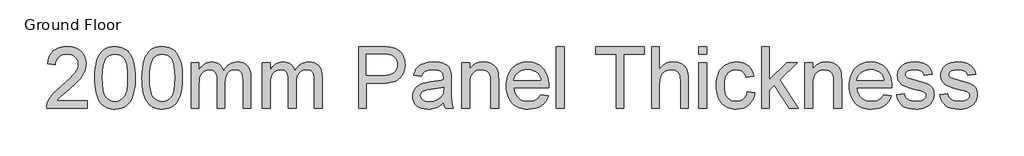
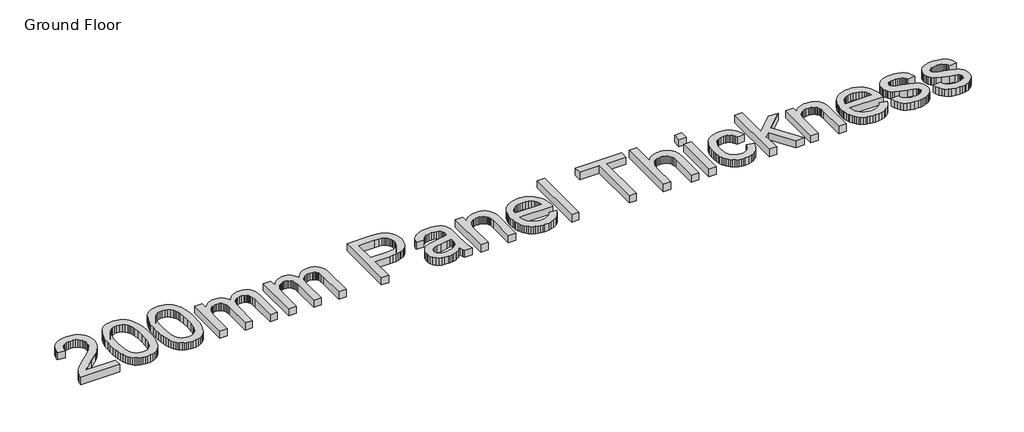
# One storey, part 9 of 9: 1 proxy.
"""IFC4 building model written with IfcOpenShell, lengths in millimetres."""

from ifc_helpers import new_model, si_unit, origin, origin_with_axes, place, context, project, spatial, polyline, outline, extrude, element, save

model = new_model("IFC4")

# Units and contexts
model_context = context("Model", 3, world=origin())
ifc_project = project(units=[si_unit("LENGTHUNIT", "METRE", prefix="MILLI")], contexts=[model_context])

# Site, building, storey
site = spatial("IfcSite", under=ifc_project)
building = spatial("IfcBuilding", under=site)
storey = spatial("IfcBuildingStorey", under=building, Name="Ground Floor", Elevation=0.0)

# Proxy
placement = place(None, origin())
element("IfcBuildingElementProxy", 1, Name="1200mm Arial", ObjectType="1200mm Arial", at=placement, inside=storey, context=model_context, shape_type="SweptSolid", body=[
    extrude(outline(polyline([(42069.9925063, 10658.042718), (42069.9925063, 10511.1336271), (41298.719779, 10511.1336271), (41301.947762, 10562.8530874), (41314.501029, 10612.420559), (41330.5154111, 10652.2951151), (41350.7261711, 10691.5778743), (41375.1333089, 10730.2688367), (41403.7368245, 10768.3680021), (41438.2583089, 10807.3638296), (41480.4193529, 10848.7447777), (41587.6601199, 10938.6620362), (41674.8515262, 11013.6767734), (41746.1899495, 11079.473826), (41801.6753898, 11136.0531939), (41841.3078472, 11183.4148771), (41869.0505674, 11225.8807862), (41888.8667961, 11267.7728317), (41900.7565333, 11309.0910135), (41904.719779, 11349.8353317), (41900.9806988, 11388.1676293), (41889.763458, 11423.3974766), (41871.0680567, 11455.5248736), (41844.8944949, 11484.5498203), (41812.695365, 11508.5893267), (41775.9232591, 11525.7604027), (41734.5781775, 11536.0630483), (41688.6601199, 11539.4972635), (41640.2852087, 11536.1437479), (41597.0212705, 11526.083201), (41558.8683053, 11509.3156229), (41525.8263131, 11485.8410135), (41499.0968209, 11456.4484354), (41479.8813557, 11421.926951), (41468.1799175, 11382.2765604), (41463.9925063, 11337.4972635), (41317.0834154, 11355.8608999), (41329.717382, 11431.7005661), (41339.9146698, 11466.0292681), (41352.6988273, 11497.9638828), (41368.0698545, 11527.5044102), (41386.0277513, 11554.6508502), (41406.5725178, 11579.4032028), (41429.704154, 11601.761468), (41455.1715946, 11621.6001133), (41482.7237741, 11638.7936058), (41512.3606926, 11653.3419457), (41544.0823501, 11665.2451328), (41613.779882, 11681.116049), (41691.8163699, 11686.4063544), (41770.5522542, 11680.5242521), (41806.6720384, 11673.1716243), (41840.6263841, 11662.8779453), (41872.4152913, 11649.6432152), (41902.0387599, 11633.467434), (41929.4967899, 11614.3506016), (41954.7893813, 11592.292718), (41977.4861365, 11568.055946), (41997.1566576, 11542.4024482), (42013.8009447, 11515.3322244), (42027.4189978, 11486.8452749), (42038.0108169, 11456.9415994), (42045.5764019, 11425.6211982), (42051.6288699, 11358.730218), (42049.9969452, 11323.446571), (42045.1011711, 11288.4677891), (42036.9415475, 11253.7938722), (42025.5180745, 11219.4248203), (42010.3017215, 11184.75987), (41990.763458, 11149.1982578), (41938.7211995, 11075.3850476), (41902.8098891, 11034.4524304), (41855.7620376, 10987.2611129), (41728.2567109, 10874.1023771), (41559.2538699, 10732.7884567), (41522.5983302, 10695.5231868), (41492.9726199, 10658.042718), (42069.9925063, 10658.042718)])), origin_with_axes(), (0.0, 0.0, 1.0), 150.0),
    extrude(outline(polyline([(42216.9015972, 11089.3012408), (42219.6005496, 11188.1223523), (42227.6974069, 11277.4209141), (42241.1921689, 11357.1969261), (42260.0848359, 11427.4503885), (42284.294708, 11488.7551648), (42313.7410859, 11541.6851186), (42348.4239694, 11586.24025), (42388.3433586, 11622.420559), (42433.6337528, 11650.4143445), (42484.4296512, 11670.4099055), (42540.7310539, 11682.4072422), (42602.5379609, 11686.4063544), (42648.9850489, 11684.0391669), (42693.0649495, 11676.9376044), (42734.7776626, 11665.1016669), (42774.1231881, 11648.5313544), (42810.1510645, 11627.5046321), (42841.9108302, 11602.2994652), (42869.402485, 11572.9158537), (42892.626029, 11539.3537976), (42912.7471228, 11501.7477962), (42930.9314268, 11460.2323487), (42961.4896654, 11365.4731158), (42973.1642037, 11309.7455767), (42981.5031597, 11245.1410845), (42986.5065333, 11171.6596392), (42988.1743245, 11089.3012408), (42985.5022719, 10991.1077926), (42977.4861143, 10902.2575618), (42964.1258515, 10822.7505483), (42945.4214836, 10752.5867521), (42921.3999104, 10691.255076), (42892.0880319, 10638.2444226), (42857.4858479, 10593.5547919), (42817.5933586, 10557.186184), (42772.2491647, 10529.0040994), (42721.2918671, 10508.8740391), (42664.7214658, 10496.7960028), (42602.5379609, 10492.7699908), (42560.9328472, 10494.5184815), (42521.6231881, 10499.7639538), (42484.6089836, 10508.5064077), (42449.8902336, 10520.745843), (42417.4669381, 10536.48226), (42387.3390972, 10555.7156584), (42359.5067109, 10578.4460384), (42333.969779, 10604.6733999), (42306.5319239, 10646.2022972), (42282.7524495, 10693.1739325), (42262.6313557, 10745.5883058), (42246.1686427, 10803.4454169), (42233.3643103, 10866.745266), (42224.2183586, 10935.487853), (42218.7307876, 11009.6731779), (42216.9015972, 11089.3012408)]), holes=[polyline([(42363.8106881, 11089.5881726), (42368.1146654, 10961.8766136), (42381.0265972, 10858.5004595), (42390.7105461, 10815.9381593), (42402.5464836, 10779.4597102), (42416.5344097, 10749.0651124), (42432.6743245, 10724.7543658), (42469.1146654, 10687.533929), (42509.5720518, 10660.9479027), (42554.0464836, 10644.9962869), (42602.5379609, 10639.6790817), (42651.0294381, 10645.0142202), (42695.5038699, 10661.0196357), (42735.9612563, 10687.6953281), (42772.4015972, 10725.0412976), (42788.541512, 10749.4103272), (42802.5294381, 10779.8363082), (42814.3653756, 10816.3192406), (42824.0493245, 10858.8591243), (42836.9612563, 10962.1097457), (42841.2652336, 11089.5881726), (42837.1047222, 11213.9193161), (42824.6231881, 11315.4752465), (42815.2620376, 11357.7125068), (42803.8206313, 11394.2559638), (42790.2989694, 11425.1056176), (42774.6970518, 11450.261468), (42738.866441, 11489.3021286), (42697.9427904, 11517.1883146), (42651.9261001, 11533.9200263), (42600.8163699, 11539.4972635), (42552.575958, 11534.5835561), (42508.8547222, 11519.842434), (42469.6526626, 11495.273897), (42434.969779, 11460.8779453), (42418.2918671, 11433.045559), (42403.8376768, 11399.904934), (42391.607208, 11361.4560703), (42381.6004609, 11317.698968), (42368.2581313, 11214.2600476), (42363.8106881, 11089.5881726)])]), origin_with_axes(), (0.0, 0.0, 1.0), 150.0),
    extrude(outline(polyline([(43116.719779, 11089.3012408), (43119.4187314, 11188.1223523), (43127.5155887, 11277.4209141), (43141.0103508, 11357.1969261), (43159.9030177, 11427.4503885), (43184.1128898, 11488.7551648), (43213.5592677, 11541.6851186), (43248.2421512, 11586.24025), (43288.1615404, 11622.420559), (43333.4519346, 11650.4143445), (43384.247833, 11670.4099055), (43440.5492357, 11682.4072422), (43502.3561427, 11686.4063544), (43548.8032307, 11684.0391669), (43592.8831313, 11676.9376044), (43634.5958444, 11665.1016669), (43673.9413699, 11648.5313544), (43709.9692464, 11627.5046321), (43741.729012, 11602.2994652), (43769.2206668, 11572.9158537), (43792.4442109, 11539.3537976), (43812.5653046, 11501.7477962), (43830.7496086, 11460.2323487), (43861.3078472, 11365.4731158), (43872.9823856, 11309.7455767), (43881.3213415, 11245.1410845), (43886.3247151, 11171.6596392), (43887.9925063, 11089.3012408), (43885.3204537, 10991.1077926), (43877.3042961, 10902.2575618), (43863.9440333, 10822.7505483), (43845.2396654, 10752.5867521), (43821.2180922, 10691.255076), (43791.9062137, 10638.2444226), (43757.3040297, 10593.5547919), (43717.4115404, 10557.186184), (43672.0673465, 10529.0040994), (43621.1100489, 10508.8740391), (43564.5396476, 10496.7960028), (43502.3561427, 10492.7699908), (43460.751029, 10494.5184815), (43421.4413699, 10499.7639538), (43384.4271654, 10508.5064077), (43349.7084154, 10520.745843), (43317.2851199, 10536.48226), (43287.157279, 10555.7156584), (43259.3248927, 10578.4460384), (43233.7879609, 10604.6733999), (43206.3501057, 10646.2022972), (43182.5706313, 10693.1739325), (43162.4495376, 10745.5883058), (43145.9868245, 10803.4454169), (43133.1824921, 10866.745266), (43124.0365404, 10935.487853), (43118.5489694, 11009.6731779), (43116.719779, 11089.3012408)]), holes=[polyline([(43263.6288699, 11089.5881726), (43267.9328472, 10961.8766136), (43280.844779, 10858.5004595), (43290.5287279, 10815.9381593), (43302.3646654, 10779.4597102), (43316.3525915, 10749.0651124), (43332.4925063, 10724.7543658), (43368.9328472, 10687.533929), (43409.3902336, 10660.9479027), (43453.8646654, 10644.9962869), (43502.3561427, 10639.6790817), (43550.8476199, 10645.0142202), (43595.3220518, 10661.0196357), (43635.7794381, 10687.6953281), (43672.219779, 10725.0412976), (43688.3596938, 10749.4103272), (43702.3476199, 10779.8363082), (43714.1835574, 10816.3192406), (43723.8675063, 10858.8591243), (43736.7794381, 10962.1097457), (43741.0834154, 11089.5881726), (43736.922904, 11213.9193161), (43724.4413699, 11315.4752465), (43715.0802194, 11357.7125068), (43703.6388131, 11394.2559638), (43690.1171512, 11425.1056176), (43674.5152336, 11450.261468), (43638.6846228, 11489.3021286), (43597.7609722, 11517.1883146), (43551.7442819, 11533.9200263), (43500.6345518, 11539.4972635), (43452.3941398, 11534.5835561), (43408.672904, 11519.842434), (43369.4708444, 11495.273897), (43334.7879609, 11460.8779453), (43318.1100489, 11433.045559), (43303.6558586, 11399.904934), (43291.4253898, 11361.4560703), (43281.4186427, 11317.698968), (43268.0763131, 11214.2600476), (43263.6288699, 11089.5881726)])]), origin_with_axes(), (0.0, 0.0, 1.0), 150.0),
    extrude(outline(polyline([(44053.2652336, 10511.1336271), (44053.2652336, 11374.2245362), (44200.1743245, 11374.2245362), (44200.1743245, 11232.1932862), (44220.6899495, 11266.5802713), (44244.3618245, 11297.4344084), (44271.1899495, 11324.7556975), (44301.1743245, 11348.5441385), (44333.830752, 11367.8134034), (44368.6750347, 11381.5771641), (44405.7071725, 11389.8354205), (44444.9271654, 11392.5881726), (44487.805539, 11389.7816207), (44526.6310006, 11381.3619652), (44561.4035503, 11367.329206), (44592.1231881, 11347.683343), (44618.7002478, 11322.9803068), (44641.0450631, 11293.7760277), (44659.1576341, 11260.0705057), (44673.0379609, 11221.8637408), (44698.8707911, 11261.8772795), (44726.5866114, 11296.5556797), (44756.1854218, 11325.8989414), (44787.6672222, 11349.9070646), (44821.0320127, 11368.5800494), (44856.2797932, 11381.9178956), (44893.4105638, 11389.9206033), (44932.4243245, 11392.5881726), (44991.2363806, 11388.149696), (45042.857208, 11374.8342663), (45087.2868067, 11352.6418835), (45124.5251768, 11321.5725476), (45153.962588, 11281.2675938), (45174.9893103, 11231.3683573), (45187.6053437, 11171.8748381), (45191.8106881, 11102.7870362), (45191.8106881, 10511.1336271), (45044.9015972, 10511.1336271), (45044.9015972, 11039.6620362), (45041.4942819, 11112.9372493), (45031.2723359, 11162.3253885), (45023.0768458, 11180.1420611), (45012.119637, 11196.1474766), (44998.4007094, 11210.341635), (44981.9200631, 11222.7245362), (44963.2784616, 11232.7671499), (44943.0766682, 11239.9404453), (44897.9925063, 11245.6790817), (44856.3604928, 11242.0027678), (44818.4047932, 11230.973826), (44784.1254076, 11212.5922564), (44753.5223359, 11186.858059), (44728.3530354, 11153.0180377), (44710.3749637, 11110.3189965), (44699.5881207, 11058.7609354), (44695.9925063, 10998.3438544), (44695.9925063, 10511.1336271), (44549.0834154, 10511.1336271), (44549.0834154, 11056.0171499), (44546.9583266, 11100.5274482), (44540.5830603, 11139.0839112), (44529.9576164, 11171.6865391), (44515.0819949, 11198.3353317), (44495.3643991, 11219.0482223), (44470.2130319, 11233.8431442), (44439.6278934, 11242.7200973), (44403.6089836, 11245.6790817), (44374.7544026, 11243.7064254), (44347.0116824, 11237.7884567), (44320.3808231, 11227.9251754), (44294.8618245, 11214.1165817), (44271.6203472, 11196.5061413), (44251.8220518, 11175.2373203), (44235.4669381, 11150.3101186), (44222.5550063, 11121.7245362), (44212.763458, 11087.9562479), (44205.7694949, 11047.4809283), (44200.1743245, 10946.4091953), (44200.1743245, 10511.1336271), (44053.2652336, 10511.1336271)])), origin_with_axes(), (0.0, 0.0, 1.0), 150.0),
    extrude(outline(polyline([(45412.1743245, 10511.1336271), (45412.1743245, 11374.2245362), (45559.0834154, 11374.2245362), (45559.0834154, 11232.1932862), (45579.5990404, 11266.5802713), (45603.2709154, 11297.4344084), (45630.0990404, 11324.7556975), (45660.0834154, 11348.5441385), (45692.739843, 11367.8134034), (45727.5841256, 11381.5771641), (45764.6162634, 11389.8354205), (45803.8362563, 11392.5881726), (45846.7146299, 11389.7816207), (45885.5400915, 11381.3619652), (45920.3126412, 11367.329206), (45951.032279, 11347.683343), (45977.6093387, 11322.9803068), (45999.954154, 11293.7760277), (46018.0667251, 11260.0705057), (46031.9470518, 11221.8637408), (46057.779882, 11261.8772795), (46085.4957023, 11296.5556797), (46115.0945127, 11325.8989414), (46146.5763131, 11349.9070646), (46179.9411036, 11368.5800494), (46215.1888841, 11381.9178956), (46252.3196547, 11389.9206033), (46291.3334154, 11392.5881726), (46350.1454715, 11388.149696), (46401.7662989, 11374.8342663), (46446.1958976, 11352.6418835), (46483.4342677, 11321.5725476), (46512.8716789, 11281.2675938), (46533.8984012, 11231.3683573), (46546.5144346, 11171.8748381), (46550.719779, 11102.7870362), (46550.719779, 10511.1336271), (46403.8106881, 10511.1336271), (46403.8106881, 11039.6620362), (46400.4033728, 11112.9372493), (46390.1814268, 11162.3253885), (46381.9859367, 11180.1420611), (46371.0287279, 11196.1474766), (46357.3098003, 11210.341635), (46340.829154, 11222.7245362), (46322.1875525, 11232.7671499), (46301.9857591, 11239.9404453), (46256.9015972, 11245.6790817), (46215.2695837, 11242.0027678), (46177.3138841, 11230.973826), (46143.0344985, 11212.5922564), (46112.4314268, 11186.858059), (46087.2621263, 11153.0180377), (46069.2840546, 11110.3189965), (46058.4972116, 11058.7609354), (46054.9015972, 10998.3438544), (46054.9015972, 10511.1336271), (45907.9925063, 10511.1336271), (45907.9925063, 11056.0171499), (45905.8674175, 11100.5274482), (45899.4921512, 11139.0839112), (45888.8667073, 11171.6865391), (45873.9910859, 11198.3353317), (45854.27349, 11219.0482223), (45829.1221228, 11233.8431442), (45798.5369843, 11242.7200973), (45762.5180745, 11245.6790817), (45733.6634935, 11243.7064254), (45705.9207734, 11237.7884567), (45679.289914, 11227.9251754), (45653.7709154, 11214.1165817), (45630.5294381, 11196.5061413), (45610.7311427, 11175.2373203), (45594.376029, 11150.3101186), (45581.4640972, 11121.7245362), (45571.6725489, 11087.9562479), (45564.6785859, 11047.4809283), (45559.0834154, 10946.4091953), (45559.0834154, 10511.1336271), (45412.1743245, 10511.1336271)])), origin_with_axes(), (0.0, 0.0, 1.0), 150.0),
    extrude(outline(polyline([(47248.5379609, 10511.1336271), (47248.5379609, 11686.4063544), (47684.1004609, 11686.4063544), (47785.5308586, 11683.6087692), (47859.7027336, 11675.2160135), (47900.581551, 11666.4018267), (47937.9992535, 11654.3058573), (47971.9558408, 11638.9281051), (48002.4513131, 11620.2685703), (48029.8084687, 11597.9416882), (48054.3501057, 11571.5618942), (48076.0762243, 11541.1291882), (48094.9868245, 11506.6435703), (48110.3018103, 11469.2438011), (48121.2410859, 11430.0686413), (48127.8046512, 11389.1180909), (48129.9925063, 11346.3921499), (48124.0835042, 11274.2467308), (48116.6972515, 11240.3394599), (48106.3564978, 11207.8758146), (48093.061243, 11176.8557951), (48076.8114871, 11147.2794013), (48057.6072302, 11119.1466332), (48035.4484722, 11092.4574908), (48009.4340679, 11068.1131193), (47978.6628721, 11047.0146641), (47943.1348847, 11029.162125), (47902.8501057, 11014.5555021), (47857.8085352, 11003.1947955), (47808.0101732, 10995.080005), (47753.4550196, 10990.2111307), (47694.1430745, 10988.5881726), (47395.4470518, 10988.5881726), (47395.4470518, 10511.1336271), (47248.5379609, 10511.1336271)]), holes=[polyline([(47395.4470518, 11135.4972635), (47702.751029, 11135.4972635), (47773.4079893, 11138.8687124), (47833.0180745, 11148.983059), (47881.5812847, 11165.8403033), (47919.0976199, 11189.4404453), (47947.0914055, 11219.1558217), (47967.0869665, 11254.3587692), (47979.0843032, 11295.0492877), (47983.0834154, 11341.2273771), (47980.7251945, 11375.5157294), (47973.6505319, 11407.2216953), (47961.8594275, 11436.3452749), (47945.3518813, 11462.886468), (47925.0066221, 11485.9844794), (47901.7023785, 11504.7785135), (47875.4391505, 11519.2685703), (47846.2169381, 11529.4546499), (47789.547904, 11536.9866101), (47699.3078472, 11539.4972635), (47395.4470518, 11539.4972635), (47395.4470518, 11135.4972635)])]), origin_with_axes(), (0.0, 0.0, 1.0), 150.0),
    extrude(outline(polyline([(48864.5379609, 10621.3154453), (48829.7026448, 10588.6231513), (48794.3472648, 10561.1314965), (48758.4718209, 10538.8404808), (48722.0763131, 10521.7501044), (48684.7482769, 10509.0713047), (48646.0752478, 10500.0150192), (48606.0572258, 10494.5812479), (48564.6942109, 10492.7699908), (48499.2827229, 10497.1277678), (48441.9232591, 10510.2010987), (48392.6158195, 10531.9899837), (48351.360404, 10562.4944226), (48318.784676, 10599.7776257), (48295.5162989, 10641.9028033), (48281.5552726, 10688.8699553), (48276.9015972, 10740.6790817), (48278.6590546, 10771.8291172), (48283.9314268, 10801.5803601), (48292.7187137, 10829.9328104), (48305.0209154, 10856.886468), (48320.1834687, 10881.8495362), (48337.5518103, 10904.230218), (48357.1259403, 10924.0285135), (48378.9058586, 10941.2444226), (48427.5049353, 10969.2202749), (48481.7709154, 10989.448968), (48534.6381029, 11000.7110419), (48608.8817109, 11011.542718), (48759.0905177, 11034.7841953), (48817.0866114, 11047.911326), (48863.6771654, 11062.042718), (48864.5379609, 11094.7529453), (48862.0093742, 11130.3683573), (48854.4236143, 11160.3168658), (48841.780681, 11184.5984709), (48824.0805745, 11203.2131726), (48793.4864694, 11221.7920078), (48756.2211995, 11235.0626044), (48712.2847648, 11243.0249624), (48661.6771654, 11245.6790817), (48614.6203472, 11243.9126577), (48574.1629609, 11238.6133857), (48540.3050063, 11229.7812656), (48513.0464836, 11217.4162976), (48490.6478685, 11200.5500867), (48471.369637, 11178.2142379), (48455.211789, 11150.4087514), (48442.1743245, 11117.1336271), (48295.2652336, 11135.4972635), (48306.4466079, 11177.8197067), (48320.7662989, 11215.8381726), (48338.2243067, 11249.5526612), (48358.8206313, 11278.9631726), (48383.442968, 11304.6615036), (48412.979012, 11327.239451), (48447.4287634, 11346.6970149), (48486.7922222, 11363.0341953), (48530.2713593, 11375.9640604), (48577.0681455, 11385.1996783), (48627.1825809, 11390.741049), (48680.6146654, 11392.5881726), (48732.8452229, 11390.9562479), (48779.928941, 11386.0604737), (48821.8658195, 11377.9008502), (48858.6558586, 11366.4773771), (48890.6039232, 11352.5880838), (48918.0148785, 11337.0309993), (48940.8887243, 11319.8061236), (48959.2254609, 11300.9134567), (48974.0921157, 11279.8867344), (48986.5557165, 11256.2596925), (49004.2737563, 11201.2046499), (49009.6537279, 11150.417718), (49011.4470518, 11072.6591953), (49011.4470518, 10889.8836271), (49013.3121086, 10730.6723345), (49018.907279, 10634.6577749), (49029.954154, 10571.5686413), (49048.1743245, 10511.1336271), (48901.2652336, 10511.1336271), (48888.2098359, 10535.6662976), (48877.7368245, 10562.2074908), (48864.5379609, 10621.3154453)]), holes=[polyline([(48864.5379609, 10915.1336271), (48820.135262, 10902.4189609), (48765.8334154, 10890.6726896), (48627.532279, 10870.0853317), (48551.3160148, 10858.8232578), (48501.1388131, 10846.2699908), (48468.2492535, 10829.9866101), (48443.8959154, 10807.5341953), (48428.8319949, 10780.6343374), (48423.8106881, 10751.0086271), (48426.545507, 10728.1796144), (48434.7499637, 10707.3232578), (48448.4240582, 10688.4395575), (48467.5677904, 10671.5285135), (48492.001828, 10657.5943871), (48521.5468387, 10647.6414396), (48556.2028224, 10641.6696712), (48595.969779, 10639.6790817), (48636.5706313, 10641.8759034), (48674.876029, 10648.4663686), (48710.8859722, 10659.4504773), (48744.6004609, 10674.8282294), (48775.0152336, 10693.3263651), (48801.126029, 10713.6716243), (48822.9328472, 10735.8640071), (48840.4356881, 10759.9035135), (48850.6038344, 10781.4233999), (48857.8667961, 10807.5341953), (48862.2245731, 10838.2358999), (48863.6771654, 10873.5285135), (48864.5379609, 10915.1336271)])]), origin_with_axes(), (0.0, 0.0, 1.0), 150.0),
    extrude(outline(polyline([(49213.4470518, 10511.1336271), (49213.4470518, 11374.2245362), (49360.3561427, 11374.2245362), (49360.3561427, 11253.7131726), (49384.5929147, 11286.2620007), (49411.3941398, 11314.4709851), (49440.7598181, 11338.3401257), (49472.6899495, 11357.8694226), (49507.184534, 11373.0588757), (49544.2435716, 11383.9084851), (49583.8670624, 11390.4182507), (49626.0550063, 11392.5881726), (49663.0243778, 11390.8396818), (49698.4694239, 11385.5942095), (49732.3901448, 11376.8517557), (49764.7865404, 11364.6123203), (49794.4301839, 11349.5304666), (49820.0926484, 11332.2607578), (49841.7739339, 11312.8031939), (49859.4740404, 11291.1577749), (49886.194566, 11241.4109709), (49903.5180745, 11183.1279453), (49909.3284438, 11127.3914396), (49911.2652336, 11041.0966953), (49911.2652336, 10511.1336271), (49764.3561427, 10511.1336271), (49764.3561427, 11021.2983999), (49760.1238984, 11097.2635987), (49754.833593, 11127.0148416), (49747.4271654, 11151.2785135), (49737.3397187, 11171.7134389), (49724.0063557, 11189.9784425), (49707.4270766, 11206.0735242), (49687.6018813, 11219.998684), (49665.2122329, 11231.233858), (49640.9395944, 11239.2589823), (49614.7839658, 11244.0740568), (49586.7453472, 11245.6790817), (49542.1364161, 11242.0745007), (49500.7016682, 11231.2607578), (49462.4411036, 11213.237853), (49427.3547222, 11188.0057862), (49411.6519301, 11171.9689876), (49398.0428437, 11152.6952394), (49386.5274628, 11130.1845416), (49377.1057876, 11104.4368942), (49364.5435539, 11043.2307507), (49360.3561427, 10969.076809), (49360.3561427, 10511.1336271), (49213.4470518, 10511.1336271)])), origin_with_axes(), (0.0, 0.0, 1.0), 150.0),
    extrude(outline(polyline([(50717.5436427, 10768.2245362), (50861.5834154, 10749.8608999), (50839.498632, 10692.1696712), (50809.6846228, 10641.3289396), (50772.1413877, 10597.3387053), (50726.8689268, 10560.198968), (50674.3335042, 10530.6987905), (50615.0013841, 10509.6272351), (50548.8725667, 10496.9843019), (50475.9470518, 10492.7699908), (50429.127849, 10494.5879728), (50384.7923998, 10500.041919), (50342.9407041, 10509.1318294), (50303.572762, 10521.8577038), (50266.6885734, 10538.2195424), (50232.2881384, 10558.2173452), (50200.3714569, 10581.851112), (50170.938529, 10609.120843), (50144.5094186, 10639.6723567), (50121.6041895, 10673.1514716), (50102.2228419, 10709.5581877), (50086.3653756, 10748.892505), (50074.0317908, 10791.1544235), (50065.2220873, 10836.3439432), (50059.9362652, 10884.4610641), (50058.1743245, 10935.5057862), (50059.9541984, 10988.2877908), (50065.2938202, 11038.0301115), (50074.1931899, 11084.7327482), (50086.6523074, 11128.395701), (50102.6711729, 11169.0189698), (50122.2497861, 11206.6025547), (50145.3881473, 11241.1464556), (50172.0862563, 11272.6506726), (50201.6223003, 11300.7610242), (50233.2744665, 11325.1233288), (50267.0427549, 11345.7375867), (50302.9271654, 11362.6037976), (50340.9276981, 11375.7219617), (50381.0443529, 11385.0920788), (50423.2771299, 11390.7141492), (50467.626029, 11392.5881726), (50510.5245775, 11390.7186325), (50551.4190866, 11385.1100121), (50590.3095562, 11375.7623114), (50627.1959864, 11362.6755305), (50662.0783772, 11345.8496694), (50694.9567286, 11325.284728), (50725.8310406, 11300.9807063), (50754.7013131, 11272.9376044), (50780.8278002, 11241.5051204), (50803.4707556, 11207.0329524), (50822.6301794, 11169.5211005), (50838.3060716, 11128.9695646), (50850.4984323, 11085.3783448), (50859.2072613, 11038.7474411), (50864.4325587, 10989.0768533), (50866.1743245, 10936.3665817), (50865.313529, 10896.7699908), (50205.0834154, 10896.7699908), (50213.5927371, 10838.1462337), (50230.5127478, 10786.8033715), (50255.8434474, 10742.7414041), (50289.5848359, 10705.9603317), (50329.8718564, 10676.9622848), (50374.8394523, 10656.2493942), (50424.4876235, 10643.8216598), (50478.8163699, 10639.6790817), (50519.4530887, 10641.5979382), (50557.0052904, 10647.3545078), (50591.4729751, 10656.9487905), (50622.8561427, 10670.3807862), (50651.1547932, 10688.0091598), (50676.3689268, 10710.192576), (50698.4985432, 10736.9310348), (50717.5436427, 10768.2245362)]), holes=[polyline([(50205.0834154, 11043.6790817), (50719.2652336, 11043.6790817), (50711.7153401, 11085.2483288), (50699.3952052, 11121.2941385), (50682.3048287, 11151.8165107), (50660.4442109, 11176.8154453), (50620.3813557, 11206.9432862), (50574.7950631, 11228.4631726), (50523.685333, 11241.3751044), (50467.0521654, 11245.6790817), (50415.3954715, 11242.2448665), (50368.0248216, 11231.9422209), (50324.9402158, 11214.7711449), (50286.141654, 11190.7316385), (50253.5838593, 11160.9355625), (50229.2215546, 11126.4947777), (50213.05474, 11087.4092841), (50205.0834154, 11043.6790817)])]), origin_with_axes(), (0.0, 0.0, 1.0), 150.0),
    extrude(outline(polyline([(51013.0834154, 10511.1336271), (51013.0834154, 11686.4063544), (51159.9925063, 11686.4063544), (51159.9925063, 10511.1336271), (51013.0834154, 10511.1336271)])), origin_with_axes(), (0.0, 0.0, 1.0), 150.0),
    extrude(outline(polyline([(52151.6288699, 10511.1336271), (52151.6288699, 11539.4972635), (51765.9925063, 11539.4972635), (51765.9925063, 11686.4063544), (52684.1743245, 11686.4063544), (52684.1743245, 11539.4972635), (52298.5379609, 11539.4972635), (52298.5379609, 10511.1336271), (52151.6288699, 10511.1336271)])), origin_with_axes(), (0.0, 0.0, 1.0), 150.0),
    extrude(outline(polyline([(52831.0834154, 10511.1336271), (52831.0834154, 11686.4063544), (52977.9925063, 11686.4063544), (52977.9925063, 11254.2870362), (53004.1436515, 11286.7013651), (53031.9536214, 11314.7937834), (53061.4224158, 11338.5642912), (53092.5500347, 11358.0128885), (53125.3364783, 11373.1395753), (53159.7817464, 11383.9443516), (53195.885839, 11390.4272173), (53233.6487563, 11392.5881726), (53279.5757805, 11390.2299517), (53322.3824211, 11383.1552891), (53362.0686782, 11371.3641847), (53398.6345518, 11354.8566385), (53431.1475134, 11334.188581), (53458.6750347, 11309.9159425), (53481.2171157, 11282.038723), (53498.7737563, 11250.5569226), (53511.9546867, 11213.5247848), (53521.369637, 11168.9965533), (53527.0186072, 11116.972228), (53528.9015972, 11057.451809), (53528.9015972, 10511.1336271), (53381.9925063, 10511.1336271), (53381.9925063, 11042.2444226), (53379.0693884, 11091.8477607), (53370.3000347, 11134.2060703), (53355.6844452, 11169.3193516), (53335.2226199, 11197.1876044), (53309.3987563, 11218.4026257), (53278.6970518, 11233.5562124), (53243.1175063, 11242.6483644), (53202.6601199, 11245.6790817), (53171.142453, 11243.6346925), (53140.5752478, 11237.5015249), (53110.9585042, 11227.2795788), (53082.2922222, 11212.9688544), (53056.127627, 11195.1611484), (53034.0159438, 11174.4482578), (53015.9571725, 11150.8301825), (53001.9513131, 11124.3069226), (52991.4693351, 11093.6590178), (52983.982208, 11057.6670078), (52979.4899317, 11016.3308928), (52977.9925063, 10969.6506726), (52977.9925063, 10511.1336271), (52831.0834154, 10511.1336271)])), origin_with_axes(), (0.0, 0.0, 1.0), 150.0),
    extrude(outline(polyline([(53730.9015972, 11539.4972635), (53730.9015972, 11686.4063544), (53877.8106881, 11686.4063544), (53877.8106881, 11539.4972635), (53730.9015972, 11539.4972635)])), origin_with_axes(), (0.0, 0.0, 1.0), 150.0),
    extrude(outline(polyline([(53730.9015972, 10511.1336271), (53730.9015972, 11374.2245362), (53877.8106881, 11374.2245362), (53877.8106881, 10511.1336271), (53730.9015972, 10511.1336271)])), origin_with_axes(), (0.0, 0.0, 1.0), 150.0),
    extrude(outline(polyline([(54649.0834154, 10823.3154453), (54795.9925063, 10804.951809), (54780.0139907, 10735.630875), (54755.0329893, 10674.2902323), (54721.049502, 10620.9298807), (54678.063529, 10575.5498203), (54627.8863273, 10539.3336449), (54572.329154, 10513.4649482), (54511.3920091, 10497.9437301), (54445.0748927, 10492.7699908), (54402.8129742, 10494.5745229), (54362.6806278, 10499.9881193), (54324.6778534, 10509.01078), (54288.8046512, 10521.642505), (54255.061021, 10537.8832942), (54223.446963, 10557.7331477), (54193.962477, 10581.1920655), (54166.6075631, 10608.2600476), (54141.9605683, 10638.6994785), (54120.5998394, 10672.2727429), (54102.5253765, 10708.9798407), (54087.7371796, 10748.820772), (54076.2352487, 10791.7955368), (54068.0195837, 10837.904135), (54063.0901848, 10887.1465666), (54061.4470518, 10939.5228317), (54064.2536036, 11007.068375), (54072.6732591, 11070.2561413), (54086.7060184, 11129.0861307), (54106.3518813, 11183.558343), (54131.7453472, 11232.5788509), (54163.0209154, 11275.0537266), (54200.1785859, 11310.9829702), (54243.2183586, 11340.3665817), (54290.1944772, 11363.2135277), (54339.1611853, 11379.5327749), (54390.1184829, 11389.3243232), (54443.0663699, 11392.5881726), (54508.2447258, 11388.1048629), (54567.2002478, 11374.654934), (54619.932936, 11352.2383857), (54666.4427904, 11320.855218), (54705.9407485, 11281.2227607), (54737.6377478, 11234.058343), (54761.5337883, 11179.3619652), (54777.6288699, 11117.1336271), (54630.719779, 11098.7699908), (54619.2514729, 11133.0852429), (54604.0709864, 11162.8633857), (54585.1783195, 11188.104419), (54562.5734722, 11208.808343), (54536.8303082, 11224.9392912), (54508.522691, 11236.461397), (54477.6506207, 11243.3746605), (54444.2140972, 11245.6790817), (54394.2969275, 11241.1419723), (54349.2755319, 11227.5306442), (54309.1499104, 11204.8450973), (54273.9200631, 11173.0853317), (54258.5535193, 11153.6188011), (54245.2358479, 11131.5160845), (54224.7471228, 11079.402093), (54212.4538877, 11016.7433573), (54208.3561427, 10943.5398771), (54212.3642215, 10869.2335028), (54224.388458, 10805.8484709), (54244.4288522, 10753.3847813), (54257.4551084, 10731.2484398), (54272.485404, 10711.842434), (54307.015855, 10680.2709673), (54346.4779466, 10657.7199198), (54390.8716789, 10644.1892912), (54440.1970518, 10639.6790817), (54479.9460752, 10642.4946002), (54516.2698501, 10650.9411555), (54549.1683763, 10665.0187479), (54578.641654, 10684.7273771), (54603.8647542, 10710.2822422), (54624.0127478, 10741.8985419), (54639.0856349, 10779.5762763), (54649.0834154, 10823.3154453)])), origin_with_axes(), (0.0, 0.0, 1.0), 150.0),
    extrude(outline(polyline([(54924.5379609, 10511.1336271), (54924.5379609, 11686.4063544), (55071.4470518, 11686.4063544), (55071.4470518, 11054.8694226), (55400.844779, 11374.2245362), (55603.9925063, 11374.2245362), (55270.5777336, 11050.8523771), (55622.3561427, 10511.1336271), (55450.7709154, 10511.1336271), (55165.2737563, 10948.7046499), (55071.4470518, 10857.7472635), (55071.4470518, 10511.1336271), (54924.5379609, 10511.1336271)])), origin_with_axes(), (0.0, 0.0, 1.0), 150.0),
    extrude(outline(polyline([(55750.9015972, 10511.1336271), (55750.9015972, 11374.2245362), (55897.8106881, 11374.2245362), (55897.8106881, 11253.7131726), (55922.0474601, 11286.2620007), (55948.8486853, 11314.4709851), (55978.2143635, 11338.3401257), (56010.1444949, 11357.8694226), (56044.6390795, 11373.0588757), (56081.6981171, 11383.9084851), (56121.3216079, 11390.4182507), (56163.5095518, 11392.5881726), (56200.4789232, 11390.8396818), (56235.9239694, 11385.5942095), (56269.8446903, 11376.8517557), (56302.2410859, 11364.6123203), (56331.8847293, 11349.5304666), (56357.5471938, 11332.2607578), (56379.2284793, 11312.8031939), (56396.9285859, 11291.1577749), (56423.6491114, 11241.4109709), (56440.9726199, 11183.1279453), (56446.7829893, 11127.3914396), (56448.719779, 11041.0966953), (56448.719779, 10511.1336271), (56301.8106881, 10511.1336271), (56301.8106881, 11021.2983999), (56297.5784438, 11097.2635987), (56292.2881384, 11127.0148416), (56284.8817109, 11151.2785135), (56274.7942641, 11171.7134389), (56261.4609012, 11189.9784425), (56244.8816221, 11206.0735242), (56225.0564268, 11219.998684), (56202.6667783, 11231.233858), (56178.3941398, 11239.2589823), (56152.2385113, 11244.0740568), (56124.1998927, 11245.6790817), (56079.5909616, 11242.0745007), (56038.1562137, 11231.2607578), (55999.8956491, 11213.237853), (55964.8092677, 11188.0057862), (55949.1064756, 11171.9689876), (55935.4973891, 11152.6952394), (55923.9820083, 11130.1845416), (55914.560333, 11104.4368942), (55901.9980993, 11043.2307507), (55897.8106881, 10969.076809), (55897.8106881, 10511.1336271), (55750.9015972, 10511.1336271)])), origin_with_axes(), (0.0, 0.0, 1.0), 150.0),
    extrude(outline(polyline([(57254.9981881, 10768.2245362), (57399.0379609, 10749.8608999), (57376.9531775, 10692.1696712), (57347.1391682, 10641.3289396), (57309.5959332, 10597.3387053), (57264.3234722, 10560.198968), (57211.7880496, 10530.6987905), (57152.4559296, 10509.6272351), (57086.3271121, 10496.9843019), (57013.4015972, 10492.7699908), (56966.5823944, 10494.5879728), (56922.2469452, 10500.041919), (56880.3952496, 10509.1318294), (56841.0273074, 10521.8577038), (56804.1431189, 10538.2195424), (56769.7426839, 10558.2173452), (56737.8260024, 10581.851112), (56708.3930745, 10609.120843), (56681.963964, 10639.6723567), (56659.058735, 10673.1514716), (56639.6773873, 10709.5581877), (56623.8199211, 10748.892505), (56611.4863362, 10791.1544235), (56602.6766327, 10836.3439432), (56597.3908106, 10884.4610641), (56595.6288699, 10935.5057862), (56597.4087439, 10988.2877908), (56602.7483657, 11038.0301115), (56611.6477354, 11084.7327482), (56624.1068529, 11128.395701), (56640.1257183, 11169.0189698), (56659.7043316, 11206.6025547), (56682.8426927, 11241.1464556), (56709.5408018, 11272.6506726), (56739.0768458, 11300.7610242), (56770.729012, 11325.1233288), (56804.4973003, 11345.7375867), (56840.3817109, 11362.6037976), (56878.3822435, 11375.7219617), (56918.4988984, 11385.0920788), (56960.7316753, 11390.7141492), (57005.0805745, 11392.5881726), (57047.979123, 11390.7186325), (57088.873632, 11385.1100121), (57127.7641017, 11375.7623114), (57164.6505319, 11362.6755305), (57199.5329227, 11345.8496694), (57232.4112741, 11325.284728), (57263.285586, 11300.9807063), (57292.1558586, 11272.9376044), (57318.2823456, 11241.5051204), (57340.925301, 11207.0329524), (57360.0847249, 11169.5211005), (57375.7606171, 11128.9695646), (57387.9529777, 11085.3783448), (57396.6618067, 11038.7474411), (57401.8871041, 10989.0768533), (57403.6288699, 10936.3665817), (57402.7680745, 10896.7699908), (56742.5379609, 10896.7699908), (56751.0472826, 10838.1462337), (56767.9672932, 10786.8033715), (56793.2979928, 10742.7414041), (56827.0393813, 10705.9603317), (56867.3264019, 10676.9622848), (56912.2939978, 10656.2493942), (56961.9421689, 10643.8216598), (57016.2709154, 10639.6790817), (57056.9076341, 10641.5979382), (57094.4598359, 10647.3545078), (57128.9275205, 10656.9487905), (57160.3106881, 10670.3807862), (57188.6093387, 10688.0091598), (57213.8234722, 10710.192576), (57235.9530887, 10736.9310348), (57254.9981881, 10768.2245362)]), holes=[polyline([(56742.5379609, 11043.6790817), (57256.719779, 11043.6790817), (57249.1698856, 11085.2483288), (57236.8497506, 11121.2941385), (57219.7593742, 11151.8165107), (57197.8987563, 11176.8154453), (57157.8359012, 11206.9432862), (57112.2496086, 11228.4631726), (57061.1398785, 11241.3751044), (57004.5067109, 11245.6790817), (56952.850017, 11242.2448665), (56905.4793671, 11231.9422209), (56862.3947613, 11214.7711449), (56823.5961995, 11190.7316385), (56791.0384047, 11160.9355625), (56766.6761001, 11126.4947777), (56750.5092854, 11087.4092841), (56742.5379609, 11043.6790817)])]), origin_with_axes(), (0.0, 0.0, 1.0), 150.0),
    extrude(outline(polyline([(57495.4470518, 10768.2245362), (57642.3561427, 10786.5881726), (57651.2330958, 10753.0888828), (57665.525887, 10723.7501044), (57685.2345162, 10698.5718374), (57710.3589836, 10677.5540817), (57740.9710219, 10660.9837692), (57777.1423643, 10649.1478317), (57818.8730106, 10642.0462692), (57866.1629609, 10639.6790817), (57913.3991114, 10641.8490036), (57954.1075631, 10648.3587692), (57988.288316, 10659.2083786), (58015.9413699, 10674.3978317), (58037.2819239, 10692.5104027), (58052.5251768, 10712.1293658), (58061.6711285, 10733.2547209), (58064.719779, 10755.886468), (58061.6531952, 10775.72063), (58052.4534438, 10793.3310703), (58037.1205248, 10808.7177891), (58015.6544381, 10821.8807862), (57960.635262, 10840.5313544), (57864.4413699, 10863.7728317), (57730.3724779, 10902.5444936), (57643.2169381, 10935.6492521), (57613.2953295, 10952.2464645), (57587.2293671, 10971.7667948), (57565.019051, 10994.2102429), (57546.6643813, 11019.576809), (57532.2908905, 11047.1043303), (57522.0241114, 11076.0306442), (57515.8640439, 11106.3557507), (57513.8106881, 11138.0796499), (57515.4605461, 11167.0866634), (57520.4101199, 11194.9997493), (57528.6594097, 11221.8189077), (57540.2084154, 11247.5441385), (57554.608806, 11271.6553778), (57571.4122506, 11293.6325618), (57590.6187492, 11313.4756903), (57612.2283018, 11331.1847635), (57652.7932876, 11354.820772), (57705.6246086, 11374.654934), (57766.7052194, 11388.1048629), (57832.0180745, 11392.5881726), (57881.3882805, 11390.7858821), (57927.6381029, 11385.3790107), (57970.7675418, 11376.3675582), (58010.7765972, 11363.7515249), (58046.7148074, 11348.0599411), (58077.6317109, 11329.8218374), (58103.5273074, 11309.0372138), (58124.4015972, 11285.7060703), (58141.3305745, 11259.0124446), (58155.3902336, 11228.1403743), (58166.5805745, 11193.0898594), (58174.9015972, 11153.8608999), (58027.9925063, 11135.4972635), (58020.9895766, 11160.0389006), (58009.4495376, 11181.7291527), (57993.3723891, 11200.5680199), (57972.7581313, 11216.5555021), (57947.5170979, 11229.2970682), (57917.5596228, 11238.3981868), (57882.8857059, 11243.858858), (57843.4953472, 11245.6790817), (57797.8014552, 11243.9395575), (57759.1373927, 11238.7209851), (57727.5031597, 11230.0233644), (57702.8987563, 11217.8466953), (57684.4454537, 11203.3566385), (57671.2645234, 11187.7188544), (57663.3559651, 11170.933343), (57660.719779, 11153.0001044), (57665.0954893, 11130.4042237), (57678.2226199, 11110.2472635), (57700.6750347, 11092.2422919), (57733.0265972, 11077.823968), (57859.563529, 11046.5483999), (57989.3643103, 11008.1712692), (58075.1927904, 10977.3978317), (58105.3923643, 10962.3877109), (58132.1487563, 10944.3289396), (58155.4619665, 10923.2215178), (58175.3319949, 10899.0654453), (58191.2118778, 10871.8248558), (58202.5546512, 10841.4638828), (58209.3603153, 10807.9825263), (58211.6288699, 10771.3807862), (58208.965784, 10734.617647), (58200.9765262, 10698.9305021), (58187.6610965, 10664.3193516), (58169.0194949, 10630.7841953), (58145.3565866, 10599.6610597), (58116.9772364, 10572.2859709), (58083.8814445, 10548.658929), (58046.0692109, 10528.779934), (58004.5716966, 10513.0255838), (57960.4200631, 10501.7724766), (57913.6143103, 10495.0206122), (57864.1544381, 10492.7699908), (57785.086789, 10497.1098345), (57716.025887, 10510.1293658), (57656.9717322, 10531.8285845), (57607.9243245, 10562.2074908), (57567.8614694, 10601.1226186), (57535.7609722, 10648.4305021), (57511.622833, 10704.1311413), (57495.4470518, 10768.2245362)])), origin_with_axes(), (0.0, 0.0, 1.0), 150.0),
    extrude(outline(polyline([(58321.8106881, 10768.2245362), (58468.719779, 10786.5881726), (58477.5967322, 10753.0888828), (58491.8895234, 10723.7501044), (58511.5981526, 10698.5718374), (58536.7226199, 10677.5540817), (58567.3346583, 10660.9837692), (58603.5060006, 10649.1478317), (58645.2366469, 10642.0462692), (58692.5265972, 10639.6790817), (58739.7627478, 10641.8490036), (58780.4711995, 10648.3587692), (58814.6519523, 10659.2083786), (58842.3050063, 10674.3978317), (58863.6455603, 10692.5104027), (58878.8888131, 10712.1293658), (58888.0347648, 10733.2547209), (58891.0834154, 10755.886468), (58888.0168316, 10775.72063), (58878.8170802, 10793.3310703), (58863.4841611, 10808.7177891), (58842.0180745, 10821.8807862), (58786.9988984, 10840.5313544), (58690.8050063, 10863.7728317), (58556.7361143, 10902.5444936), (58469.5805745, 10935.6492521), (58439.6589658, 10952.2464645), (58413.5930035, 10971.7667948), (58391.3826874, 10994.2102429), (58373.0280177, 11019.576809), (58358.6545269, 11047.1043303), (58348.3877478, 11076.0306442), (58342.2276803, 11106.3557507), (58340.1743245, 11138.0796499), (58341.8241824, 11167.0866634), (58346.7737563, 11194.9997493), (58355.0230461, 11221.8189077), (58366.5720518, 11247.5441385), (58380.9724424, 11271.6553778), (58397.775887, 11293.6325618), (58416.9823856, 11313.4756903), (58438.5919381, 11331.1847635), (58479.1569239, 11354.820772), (58531.9882449, 11374.654934), (58593.0688557, 11388.1048629), (58658.3817109, 11392.5881726), (58707.7519168, 11390.7858821), (58754.0017393, 11385.3790107), (58797.1311782, 11376.3675582), (58837.1402336, 11363.7515249), (58873.0784438, 11348.0599411), (58903.9953472, 11329.8218374), (58929.8909438, 11309.0372138), (58950.7652336, 11285.7060703), (58967.6942109, 11259.0124446), (58981.7538699, 11228.1403743), (58992.9442109, 11193.0898594), (59001.2652336, 11153.8608999), (58854.3561427, 11135.4972635), (58847.353213, 11160.0389006), (58835.8131739, 11181.7291527), (58819.7360255, 11200.5680199), (58799.1217677, 11216.5555021), (58773.8807343, 11229.2970682), (58743.9232591, 11238.3981868), (58709.2493422, 11243.858858), (58669.8589836, 11245.6790817), (58624.1650915, 11243.9395575), (58585.501029, 11238.7209851), (58553.8667961, 11230.0233644), (58529.2623927, 11217.8466953), (58510.8090901, 11203.3566385), (58497.6281597, 11187.7188544), (58489.7196015, 11170.933343), (58487.0834154, 11153.0001044), (58491.4591256, 11130.4042237), (58504.5862563, 11110.2472635), (58527.0386711, 11092.2422919), (58559.3902336, 11077.823968), (58685.9271654, 11046.5483999), (58815.7279466, 11008.1712692), (58901.5564268, 10977.3978317), (58931.7560006, 10962.3877109), (58958.5123927, 10944.3289396), (58981.8256029, 10923.2215178), (59001.6956313, 10899.0654453), (59017.5755141, 10871.8248558), (59028.9182876, 10841.4638828), (59035.7239516, 10807.9825263), (59037.9925063, 10771.3807862), (59035.3294204, 10734.617647), (59027.3401626, 10698.9305021), (59014.0247329, 10664.3193516), (58995.3831313, 10630.7841953), (58971.7202229, 10599.6610597), (58943.3408728, 10572.2859709), (58910.2450809, 10548.658929), (58872.4328472, 10528.779934), (58830.935333, 10513.0255838), (58786.7836995, 10501.7724766), (58739.9779466, 10495.0206122), (58690.5180745, 10492.7699908), (58611.4504253, 10497.1098345), (58542.3895234, 10510.1293658), (58483.3353685, 10531.8285845), (58434.2879609, 10562.2074908), (58394.2251057, 10601.1226186), (58362.1246086, 10648.4305021), (58337.9864694, 10704.1311413), (58321.8106881, 10768.2245362)])), origin_with_axes(), (0.0, 0.0, 1.0), 150.0),
])

save(model, "model.ifc")
